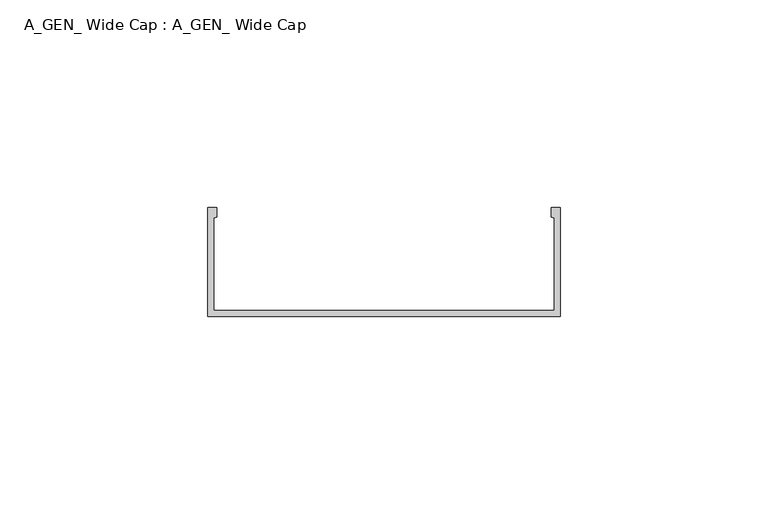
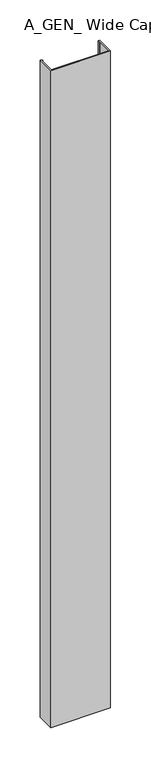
"""IFC4 building model written with IfcOpenShell, lengths in millimetres: proxy geometry, A_GEN_ Wide Cap : A_GEN_ Wide Cap."""

from ifc_helpers import new_model, si_unit, origin, origin_with_axes, place, context, project, spatial, polyline, outline, extrude, source, transform, mapped, element, save


def a_gen_wide_cap_a_gen_wide_cap_dd60f3a1(model_context):
    return source(origin(), model_context, "Body", "SweptSolid", [
        extrude(outline(polyline([(0.0, -26.1007192), (0.0, 0.0), (2.149007, 0.0), (2.149007, -2.2419727), (1.4, -2.4826662), (1.4, -24.7007192), (83.2230145, -24.7007192), (83.2230145, -2.4826662), (82.4740075, -2.2419727), (82.4740075, 0.0), (84.6230145, 0.0), (84.6230145, -26.1007192), (0.0, -26.1007192)])), origin_with_axes(), (0.0, 0.0, 1.0), 992.5516144),
    ])


if __name__ == "__main__":
    model = new_model("IFC4")
    model_context = context("Model", 3, world=origin())
    ifc_project = project(units=[si_unit("LENGTHUNIT", "METRE", prefix="MILLI")], contexts=[model_context])
    site = spatial("IfcSite", under=ifc_project)
    building = spatial("IfcBuilding", under=site)
    placement = place(None, origin())
    a_gen_wide_cap_a_gen_wide_cap_shape = a_gen_wide_cap_a_gen_wide_cap_dd60f3a1(model_context)
    element("IfcBuildingElementProxy", 1, Name="A_GEN_ Wide Cap : A_GEN_ Wide Cap", ObjectType="A_GEN_ Wide Cap : A_GEN_ Wide Cap", at=placement, inside=building, context=model_context, shape_type="MappedRepresentation", body=[
        mapped(a_gen_wide_cap_a_gen_wide_cap_shape, transform((0.0, 0.0, 0.0), x_axis=(1.0, 0.0, 0.0), y_axis=(0.0, 1.0, 0.0), z_axis=(0.0, 0.0, 1.0))),
    ])
    save(model, "model.ifc")
